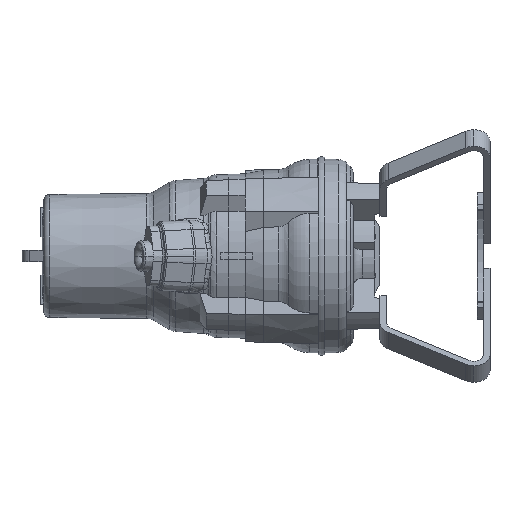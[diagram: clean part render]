
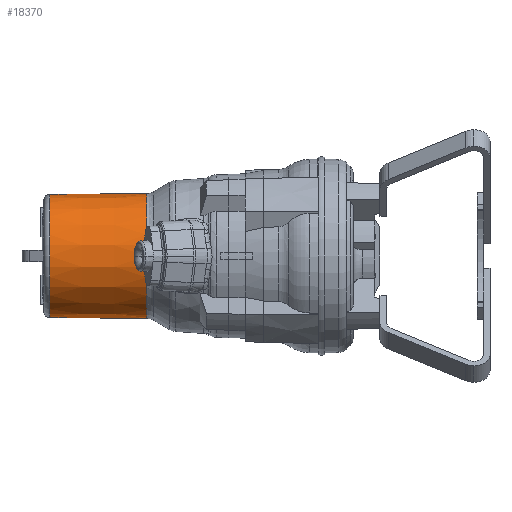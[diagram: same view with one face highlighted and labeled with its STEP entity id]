
A CAD part, left-side view. The second image highlights one B-rep face of the part: STEP entity #18370.
In plain terms, the highlighted conical face has half-angle 0.524 degrees and reference radius 95 mm.
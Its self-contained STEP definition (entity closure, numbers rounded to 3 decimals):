
#590 = EDGE_CURVE ( 'NONE', #22887, #14512, #27700, .T. ) ;
#781 = VERTEX_POINT ( 'NONE', #3696 ) ;
#1398 = EDGE_CURVE ( 'NONE', #22835, #14512, #8929, .T. ) ;
#2756 = DIRECTION ( 'NONE',  ( 0., 1., 0. ) ) ;
#3696 = CARTESIAN_POINT ( 'NONE',  ( 0., 278.855, -95.084 ) ) ;
#4228 = AXIS2_PLACEMENT_3D ( 'NONE', #23336, #2756, #23193 ) ;
#4391 = DIRECTION ( 'NONE',  ( 0., 0., -1. ) ) ;
#6733 = FACE_OUTER_BOUND ( 'NONE', #20220, .T. ) ;
#7670 = CONICAL_SURFACE ( 'NONE', #24256, 95., 0.009 ) ;
#8522 = ORIENTED_EDGE ( 'NONE', *, *, #1398, .T. ) ;
#8929 = CIRCLE ( 'NONE', #4228, 96.452 ) ;
#10545 = CARTESIAN_POINT ( 'NONE',  ( 0., 278.855, 95.084 ) ) ;
#11937 = CIRCLE ( 'NONE', #21435, 95.084 ) ;
#12392 = ORIENTED_EDGE ( 'NONE', *, *, #590, .F. ) ;
#13123 = CARTESIAN_POINT ( 'NONE',  ( 0., 288., 0. ) ) ;
#13156 = DIRECTION ( 'NONE',  ( 0., -1., 0. ) ) ;
#13269 = DIRECTION ( 'NONE',  ( 0., -1., 0. ) ) ;
#14512 = VERTEX_POINT ( 'NONE', #24674 ) ;
#14696 = VECTOR ( 'NONE', #24494, 1000. ) ;
#14866 = ORIENTED_EDGE ( 'NONE', *, *, #17884, .T. ) ;
#16707 = ORIENTED_EDGE ( 'NONE', *, *, #26428, .T. ) ;
#17207 = DIRECTION ( 'NONE',  ( 0., 0., 1. ) ) ;
#17884 = EDGE_CURVE ( 'NONE', #22887, #781, #11937, .T. ) ;
#18370 = ADVANCED_FACE ( 'NONE', ( #6733 ), #7670, .T. ) ;
#18825 = DIRECTION ( 'NONE',  ( 0., -1., 0.009 ) ) ;
#20220 = EDGE_LOOP ( 'NONE', ( #12392, #14866, #16707, #8522 ) ) ;
#21033 = CARTESIAN_POINT ( 'NONE',  ( 0., 288., 95. ) ) ;
#21435 = AXIS2_PLACEMENT_3D ( 'NONE', #21647, #13156, #17207 ) ;
#21647 = CARTESIAN_POINT ( 'NONE',  ( 0., 278.855, 0. ) ) ;
#22425 = CARTESIAN_POINT ( 'NONE',  ( 0., 288., -95. ) ) ;
#22835 = VERTEX_POINT ( 'NONE', #26128 ) ;
#22887 = VERTEX_POINT ( 'NONE', #10545 ) ;
#23193 = DIRECTION ( 'NONE',  ( 0., 0., -1. ) ) ;
#23336 = CARTESIAN_POINT ( 'NONE',  ( 0., 129.261, 0. ) ) ;
#23376 = VECTOR ( 'NONE', #18825, 1000. ) ;
#24256 = AXIS2_PLACEMENT_3D ( 'NONE', #13123, #13269, #4391 ) ;
#24494 = DIRECTION ( 'NONE',  ( 0., -1., -0.009 ) ) ;
#24674 = CARTESIAN_POINT ( 'NONE',  ( 0., 129.261, 96.452 ) ) ;
#26128 = CARTESIAN_POINT ( 'NONE',  ( 0., 129.261, -96.452 ) ) ;
#26428 = EDGE_CURVE ( 'NONE', #781, #22835, #29233, .T. ) ;
#27700 = LINE ( 'NONE', #21033, #23376 ) ;
#29233 = LINE ( 'NONE', #22425, #14696 ) ;
